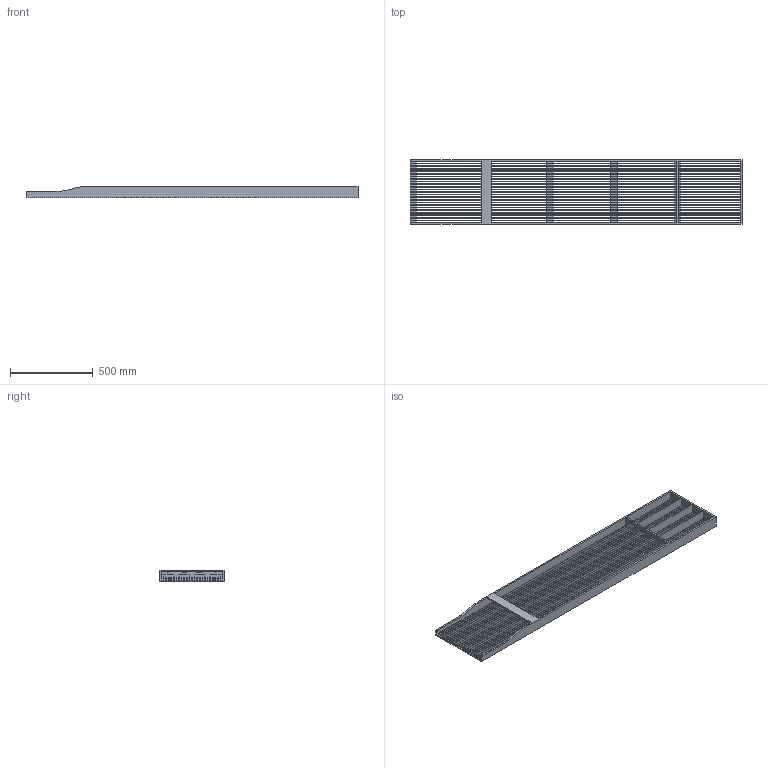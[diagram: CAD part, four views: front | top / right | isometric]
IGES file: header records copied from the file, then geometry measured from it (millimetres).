
Start section: Data from Parasolid IGES Translator 17.0.49, Copyright(c) 2006 Siemens P LM Software. All Rights Reserved.
Global section: file name: Sjuul.igs; native system: By Siemens PLM Incorporated; preprocessor: XPlus GENERIC/IGES 17.0.49; author: Noname; organization: Noname; date: 20170605.155809; units: metre
Bounding box: 2010 x 392 x 69 mm (x, y, z)
Volume: 7714065.2 mm3; surface area: 3133755.5 mm2
Topology: 1 solids, 1 shells, 405 faces, 1823 edges, 1200 vertices
Faces by surface type: plane 368, cylinder 35, bspline 2
Full cylindrical faces by diameter (mm): 3 x10
